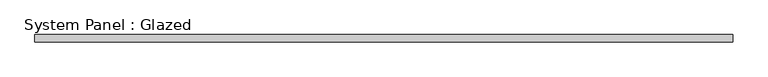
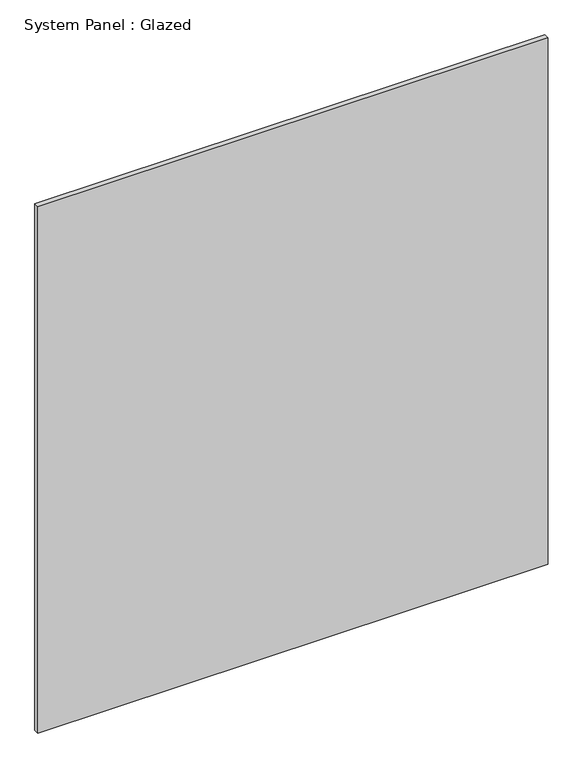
"""IFC4 building model written with IfcOpenShell, lengths in millimetres: plate geometry, System Panel : Glazed."""

from ifc_helpers import new_model, si_unit, origin, origin_with_axes, place, context, project, spatial, polyline, outline, extrude, source, transform, mapped, element, save


def system_panel_glazed_4097dd18(model_context):
    return source(origin(), model_context, "Body", "SweptSolid", [
        extrude(outline(polyline([(1235.2309405, 19.05), (-1235.2309405, 19.05), (-1235.2309405, 44.45), (1235.2309405, 44.45), (1235.2309405, 19.05)])), origin_with_axes(), (0.0, 0.0, 1.0), 2692.4),
    ])


if __name__ == "__main__":
    model = new_model("IFC4")
    model_context = context("Model", 3, world=origin())
    ifc_project = project(units=[si_unit("LENGTHUNIT", "METRE", prefix="MILLI")], contexts=[model_context])
    site = spatial("IfcSite", under=ifc_project)
    building = spatial("IfcBuilding", under=site)
    placement = place(None, origin())
    system_panel_glazed_shape = system_panel_glazed_4097dd18(model_context)
    element("IfcPlate", 1, ObjectType="System Panel : Glazed", at=placement, inside=building, context=model_context, shape_type="MappedRepresentation", body=[
        mapped(system_panel_glazed_shape, transform((0.0, 0.0, 0.0), x_axis=(1.0, 0.0, 0.0), y_axis=(0.0, 1.0, 0.0), z_axis=(0.0, 0.0, 1.0))),
    ])
    save(model, "model.ifc")
